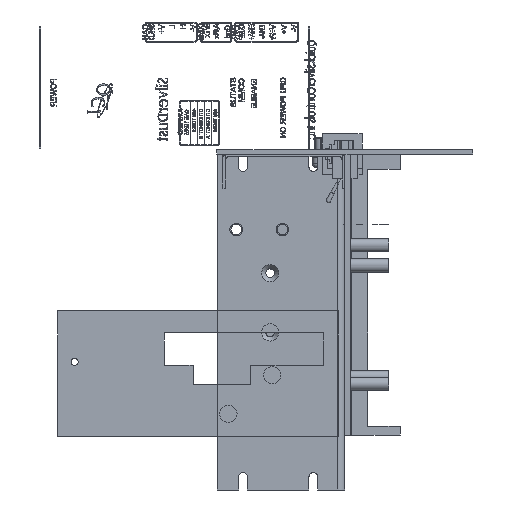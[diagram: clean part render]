
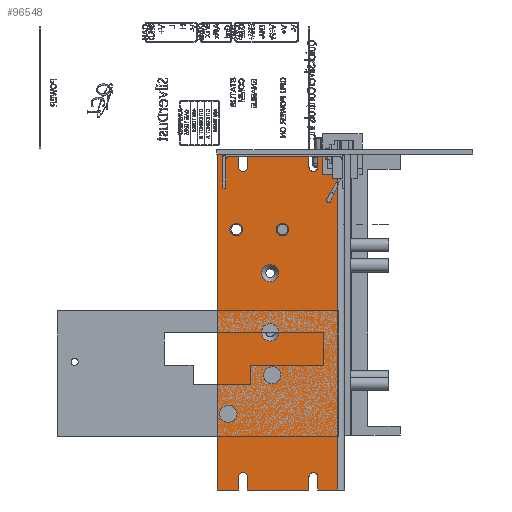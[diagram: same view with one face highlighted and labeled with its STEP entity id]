
A CAD part, left-side view. The second image highlights one B-rep face of the part: STEP entity #96548.
In plain terms, the highlighted planar face has unit normal (-1, 0, 0).
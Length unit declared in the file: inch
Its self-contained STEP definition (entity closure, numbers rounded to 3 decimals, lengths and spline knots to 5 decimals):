
#24480=VERTEX_POINT('',#218001);
#24482=VERTEX_POINT('',#218006);
#24484=VERTEX_POINT('',#218011);
#24486=VERTEX_POINT('',#218016);
#24487=VERTEX_POINT('',#218019);
#24488=VERTEX_POINT('',#218024);
#24489=VERTEX_POINT('',#218026);
#24490=VERTEX_POINT('',#218030);
#24491=VERTEX_POINT('',#218034);
#24492=VERTEX_POINT('',#218038);
#24493=VERTEX_POINT('',#218040);
#24494=VERTEX_POINT('',#218044);
#24495=VERTEX_POINT('',#218048);
#24496=VERTEX_POINT('',#218052);
#24497=VERTEX_POINT('',#218054);
#24498=VERTEX_POINT('',#218058);
#24499=VERTEX_POINT('',#218062);
#24500=VERTEX_POINT('',#218066);
#24501=VERTEX_POINT('',#218068);
#24502=VERTEX_POINT('',#218072);
#24503=VERTEX_POINT('',#218076);
#24504=VERTEX_POINT('',#218082);
#24509=VERTEX_POINT('',#218093);
#24510=VERTEX_POINT('',#218095);
#24511=VERTEX_POINT('',#218099);
#24516=VERTEX_POINT('',#218110);
#36801=EDGE_CURVE('',#24480,#24480,#142748,.T.);
#36803=EDGE_CURVE('',#24482,#24482,#142750,.T.);
#36805=EDGE_CURVE('',#24484,#24484,#142752,.T.);
#36807=EDGE_CURVE('',#24486,#24486,#142754,.T.);
#36808=EDGE_CURVE('',#24487,#24487,#142755,.T.);
#36810=EDGE_CURVE('',#24489,#24488,#142756,.T.);
#36812=EDGE_CURVE('',#24490,#24489,#118273,.T.);
#36815=EDGE_CURVE('',#24488,#24491,#118276,.T.);
#36817=EDGE_CURVE('',#24493,#24492,#142757,.T.);
#36819=EDGE_CURVE('',#24494,#24493,#118279,.T.);
#36822=EDGE_CURVE('',#24492,#24495,#118282,.T.);
#36824=EDGE_CURVE('',#24497,#24496,#142758,.T.);
#36826=EDGE_CURVE('',#24498,#24497,#118285,.T.);
#36829=EDGE_CURVE('',#24496,#24499,#118288,.T.);
#36831=EDGE_CURVE('',#24501,#24500,#142759,.T.);
#36833=EDGE_CURVE('',#24502,#24501,#118291,.T.);
#36836=EDGE_CURVE('',#24500,#24503,#118294,.T.);
#36837=EDGE_CURVE('',#24504,#24504,#142760,.T.);
#36843=EDGE_CURVE('',#24499,#24509,#118298,.T.);
#36844=EDGE_CURVE('',#24510,#24494,#118298,.T.);
#36846=EDGE_CURVE('',#24502,#24511,#118300,.T.);
#36852=EDGE_CURVE('',#24490,#24503,#118300,.T.);
#36853=EDGE_CURVE('',#24516,#24491,#118300,.T.);
#36854=EDGE_CURVE('',#24516,#24510,#118304,.T.);
#36855=EDGE_CURVE('',#24495,#24498,#118298,.T.);
#36856=EDGE_CURVE('',#24511,#24509,#118305,.T.);
#58006=ORIENTED_EDGE('',*,*,#36801,.T.);
#58007=ORIENTED_EDGE('',*,*,#36803,.T.);
#58008=ORIENTED_EDGE('',*,*,#36805,.T.);
#58009=ORIENTED_EDGE('',*,*,#36807,.T.);
#58010=ORIENTED_EDGE('',*,*,#36815,.T.);
#58011=ORIENTED_EDGE('',*,*,#36853,.F.);
#58012=ORIENTED_EDGE('',*,*,#36854,.T.);
#58013=ORIENTED_EDGE('',*,*,#36844,.T.);
#58014=ORIENTED_EDGE('',*,*,#36819,.T.);
#58015=ORIENTED_EDGE('',*,*,#36817,.T.);
#58016=ORIENTED_EDGE('',*,*,#36822,.T.);
#58017=ORIENTED_EDGE('',*,*,#36855,.T.);
#58018=ORIENTED_EDGE('',*,*,#36826,.T.);
#58019=ORIENTED_EDGE('',*,*,#36824,.T.);
#58020=ORIENTED_EDGE('',*,*,#36829,.T.);
#58021=ORIENTED_EDGE('',*,*,#36843,.T.);
#58022=ORIENTED_EDGE('',*,*,#36856,.F.);
#58023=ORIENTED_EDGE('',*,*,#36846,.F.);
#58024=ORIENTED_EDGE('',*,*,#36833,.T.);
#58025=ORIENTED_EDGE('',*,*,#36831,.T.);
#58026=ORIENTED_EDGE('',*,*,#36836,.T.);
#58027=ORIENTED_EDGE('',*,*,#36852,.F.);
#58028=ORIENTED_EDGE('',*,*,#36812,.T.);
#58029=ORIENTED_EDGE('',*,*,#36810,.T.);
#58030=ORIENTED_EDGE('',*,*,#36808,.T.);
#58031=ORIENTED_EDGE('',*,*,#36837,.T.);
#82563=EDGE_LOOP('',(#58006));
#82564=EDGE_LOOP('',(#58007));
#82565=EDGE_LOOP('',(#58008));
#82566=EDGE_LOOP('',(#58009));
#82567=EDGE_LOOP('',(#58010,#58011,#58012,#58013,#58014,#58015,#58016,#58017,
#58018,#58019,#58020,#58021,#58022,#58023,#58024,#58025,#58026,#58027,#58028,
#58029));
#82568=EDGE_LOOP('',(#58030));
#82569=EDGE_LOOP('',(#58031));
#89619=FACE_BOUND('',#82563,.T.);
#89620=FACE_BOUND('',#82564,.T.);
#89621=FACE_BOUND('',#82565,.T.);
#89622=FACE_BOUND('',#82566,.T.);
#89623=FACE_BOUND('',#82567,.T.);
#89624=FACE_BOUND('',#82568,.T.);
#89625=FACE_BOUND('',#82569,.T.);
#96548=ADVANCED_FACE('',(#89619,#89620,#89621,#89622,#89623,#89624,#89625),
#188160,.T.);
#118273=LINE('',#218029,#177309);
#118276=LINE('',#218035,#177312);
#118279=LINE('',#218043,#177315);
#118282=LINE('',#218049,#177318);
#118285=LINE('',#218057,#177321);
#118288=LINE('',#218063,#177324);
#118291=LINE('',#218071,#177327);
#118294=LINE('',#218077,#177330);
#118298=LINE('',#218094,#177334);
#118300=LINE('',#218098,#177336);
#118304=LINE('',#218111,#177340);
#118305=LINE('',#218112,#177341);
#142748=CIRCLE('',#166906,0.31115);
#142750=CIRCLE('',#166909,0.31115);
#142752=CIRCLE('',#166912,0.31115);
#142754=CIRCLE('',#166915,0.31115);
#142755=CIRCLE('',#166917,0.2286);
#142756=CIRCLE('',#166921,0.15875);
#142757=CIRCLE('',#166925,0.15875);
#142758=CIRCLE('',#166929,0.15875);
#142759=CIRCLE('',#166933,0.15875);
#142760=CIRCLE('',#166939,0.2286);
#166906=AXIS2_PLACEMENT_3D('',#218000,#307887,#307888);
#166909=AXIS2_PLACEMENT_3D('',#218005,#307893,#307894);
#166912=AXIS2_PLACEMENT_3D('',#218010,#307899,#307900);
#166915=AXIS2_PLACEMENT_3D('',#218015,#307905,#307906);
#166917=AXIS2_PLACEMENT_3D('',#218018,#307909,#307910);
#166921=AXIS2_PLACEMENT_3D('',#218025,#307918,#307919);
#166925=AXIS2_PLACEMENT_3D('',#218039,#307930,#307931);
#166929=AXIS2_PLACEMENT_3D('',#218053,#307942,#307943);
#166933=AXIS2_PLACEMENT_3D('',#218067,#307954,#307955);
#166939=AXIS2_PLACEMENT_3D('',#218081,#307969,#307970);
#166946=AXIS2_PLACEMENT_3D('',#218109,#307990,$);
#177309=VECTOR('',#307922,1.);
#177312=VECTOR('',#307926,1.);
#177315=VECTOR('',#307934,1.);
#177318=VECTOR('',#307938,1.);
#177321=VECTOR('',#307946,1.);
#177324=VECTOR('',#307950,1.);
#177327=VECTOR('',#307958,1.);
#177330=VECTOR('',#307962,1.);
#177334=VECTOR('',#307979,1.);
#177336=VECTOR('',#307982,1.);
#177340=VECTOR('',#307991,1.);
#177341=VECTOR('',#307992,1.);
#188160=PLANE('',#166946);
#218000=CARTESIAN_POINT('',(0.,2.70002,-4.3053));
#218001=CARTESIAN_POINT('',(0.,2.70002,-4.61645));
#218005=CARTESIAN_POINT('',(0.,2.70002,-6.4516));
#218006=CARTESIAN_POINT('',(0.,2.70002,-6.76275));
#218010=CARTESIAN_POINT('',(0.,2.61874,-7.99592));
#218011=CARTESIAN_POINT('',(0.,2.61874,-8.30707));
#218015=CARTESIAN_POINT('',(0.,4.20878,-9.39546));
#218016=CARTESIAN_POINT('',(0.,4.20878,-9.70661));
#218018=CARTESIAN_POINT('',(0.,2.25552,-2.7305));
#218019=CARTESIAN_POINT('',(0.,2.25552,-2.5019));
#218024=CARTESIAN_POINT('',(0.,3.83667,-0.47244));
#218025=CARTESIAN_POINT('',(0.,3.67792,-0.47244));
#218026=CARTESIAN_POINT('',(0.,3.51917,-0.47244));
#218029=CARTESIAN_POINT('',(0.,3.51917,-0.23622));
#218030=CARTESIAN_POINT('',(0.,3.51917,0.));
#218034=CARTESIAN_POINT('',(0.,3.83667,0.));
#218035=CARTESIAN_POINT('',(0.,3.83667,0.));
#218038=CARTESIAN_POINT('',(0.,3.51917,-11.67384));
#218039=CARTESIAN_POINT('',(0.,3.67792,-11.67384));
#218040=CARTESIAN_POINT('',(0.,3.83667,-11.67384));
#218043=CARTESIAN_POINT('',(0.,3.83667,-5.83692));
#218044=CARTESIAN_POINT('',(0.,3.83667,-12.14628));
#218048=CARTESIAN_POINT('',(0.,3.51917,-12.14628));
#218049=CARTESIAN_POINT('',(0.,3.51917,-6.07314));
#218052=CARTESIAN_POINT('',(0.,0.97917,-11.67384));
#218053=CARTESIAN_POINT('',(0.,1.13792,-11.67384));
#218054=CARTESIAN_POINT('',(0.,1.29667,-11.67384));
#218057=CARTESIAN_POINT('',(0.,1.29667,-5.83692));
#218058=CARTESIAN_POINT('',(0.,1.29667,-12.14628));
#218062=CARTESIAN_POINT('',(0.,0.97917,-12.14628));
#218063=CARTESIAN_POINT('',(0.,0.97917,-6.07314));
#218066=CARTESIAN_POINT('',(0.,1.29667,-0.47244));
#218067=CARTESIAN_POINT('',(0.,1.13792,-0.47244));
#218068=CARTESIAN_POINT('',(0.,0.97917,-0.47244));
#218071=CARTESIAN_POINT('',(0.,0.97917,-0.23622));
#218072=CARTESIAN_POINT('',(0.,0.97917,0.));
#218076=CARTESIAN_POINT('',(0.,1.29667,0.));
#218077=CARTESIAN_POINT('',(0.,1.29667,0.));
#218081=CARTESIAN_POINT('',(0.,3.92684,-2.7305));
#218082=CARTESIAN_POINT('',(0.,3.92684,-2.5019));
#218093=CARTESIAN_POINT('',(0.,0.254,-12.14628));
#218094=CARTESIAN_POINT('',(0.,4.61264,-12.14628));
#218095=CARTESIAN_POINT('',(0.,4.61264,-12.14628));
#218098=CARTESIAN_POINT('',(0.,4.61264,0.));
#218099=CARTESIAN_POINT('',(0.,0.254,0.));
#218109=CARTESIAN_POINT('',(0.,4.61264,0.));
#218110=CARTESIAN_POINT('',(0.,4.61264,0.));
#218111=CARTESIAN_POINT('',(0.,4.61264,0.));
#218112=CARTESIAN_POINT('',(0.,0.254,0.));
#307887=DIRECTION('',(1.,0.,0.));
#307888=DIRECTION('',(0.,0.,-0.311));
#307893=DIRECTION('',(1.,0.,0.));
#307894=DIRECTION('',(0.,0.,-0.311));
#307899=DIRECTION('',(1.,0.,0.));
#307900=DIRECTION('',(0.,0.,-0.311));
#307905=DIRECTION('',(1.,0.,0.));
#307906=DIRECTION('',(0.,0.,-0.311));
#307909=DIRECTION('',(1.,0.,0.));
#307910=DIRECTION('',(0.,0.,0.229));
#307918=DIRECTION('',(1.,0.,0.));
#307919=DIRECTION('',(0.,0.,0.159));
#307922=DIRECTION('',(0.,0.,-1.));
#307926=DIRECTION('',(0.,0.,1.));
#307930=DIRECTION('',(1.,0.,0.));
#307931=DIRECTION('',(0.,0.,0.159));
#307934=DIRECTION('',(0.,0.,1.));
#307938=DIRECTION('',(0.,0.,-1.));
#307942=DIRECTION('',(1.,0.,0.));
#307943=DIRECTION('',(0.,0.,0.159));
#307946=DIRECTION('',(0.,0.,1.));
#307950=DIRECTION('',(0.,0.,-1.));
#307954=DIRECTION('',(1.,0.,0.));
#307955=DIRECTION('',(0.,0.,0.159));
#307958=DIRECTION('',(0.,0.,-1.));
#307962=DIRECTION('',(0.,0.,1.));
#307969=DIRECTION('',(1.,0.,0.));
#307970=DIRECTION('',(0.,0.,0.229));
#307979=DIRECTION('',(0.,-1.,0.));
#307982=DIRECTION('',(0.,-1.,0.));
#307990=DIRECTION('',(-1.,0.,0.));
#307991=DIRECTION('',(0.,0.,-1.));
#307992=DIRECTION('',(0.,0.,-1.));
